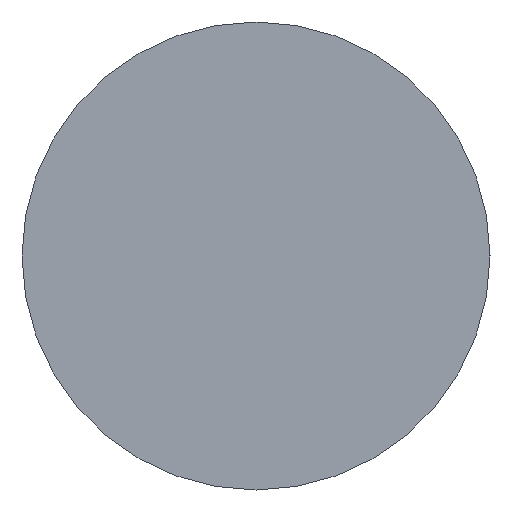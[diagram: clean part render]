
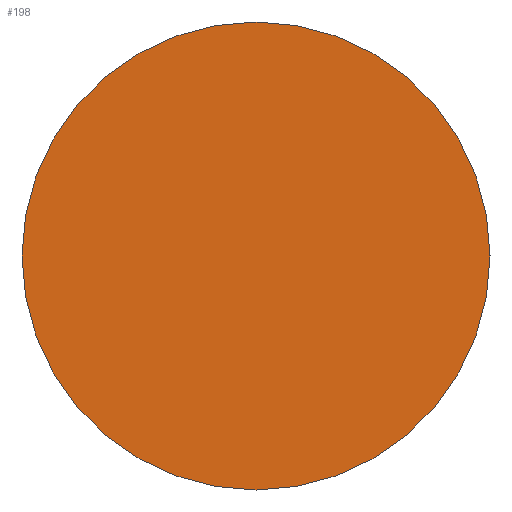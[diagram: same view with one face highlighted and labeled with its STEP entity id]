
A CAD part, left-side view. The second image highlights one B-rep face of the part: STEP entity #198.
In plain terms, the highlighted planar face has unit normal (-1, 0, 0).
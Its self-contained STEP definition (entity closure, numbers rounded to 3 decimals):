
#2 = DIRECTION ( 'NONE',  ( 0., -1., 0. ) ) ;
#46 = PLANE ( 'NONE',  #54 ) ;
#50 = DIRECTION ( 'NONE',  ( 0., 1., 0. ) ) ;
#52 = CARTESIAN_POINT ( 'NONE',  ( 0., -4., 0. ) ) ;
#54 = AXIS2_PLACEMENT_3D ( 'NONE', #165, #145, #2 ) ;
#57 = VERTEX_POINT ( 'NONE', #219 ) ;
#71 = CARTESIAN_POINT ( 'NONE',  ( 0., 0., 0. ) ) ;
#90 = DIRECTION ( 'NONE',  ( 1., 0., 0. ) ) ;
#95 = ORIENTED_EDGE ( 'NONE', *, *, #137, .F. ) ;
#97 = ORIENTED_EDGE ( 'NONE', *, *, #172, .F. ) ;
#118 = AXIS2_PLACEMENT_3D ( 'NONE', #71, #191, #50 ) ;
#121 = CIRCLE ( 'NONE', #118, 4. ) ;
#133 = VERTEX_POINT ( 'NONE', #52 ) ;
#137 = EDGE_CURVE ( 'NONE', #57, #133, #121, .T. ) ;
#145 = DIRECTION ( 'NONE',  ( -1., 0., 0. ) ) ;
#165 = CARTESIAN_POINT ( 'NONE',  ( 0., 0., 0. ) ) ;
#172 = EDGE_CURVE ( 'NONE', #133, #57, #263, .T. ) ;
#180 = EDGE_LOOP ( 'NONE', ( #95, #97 ) ) ;
#191 = DIRECTION ( 'NONE',  ( 1., 0., 0. ) ) ;
#198 = ADVANCED_FACE ( 'NONE', ( #239 ), #46, .T. ) ;
#213 = DIRECTION ( 'NONE',  ( 0., 1., 0. ) ) ;
#219 = CARTESIAN_POINT ( 'NONE',  ( 0., 4., 0. ) ) ;
#232 = CARTESIAN_POINT ( 'NONE',  ( 0., 0., 0. ) ) ;
#234 = AXIS2_PLACEMENT_3D ( 'NONE', #232, #90, #213 ) ;
#239 = FACE_OUTER_BOUND ( 'NONE', #180, .T. ) ;
#263 = CIRCLE ( 'NONE', #234, 4. ) ;
